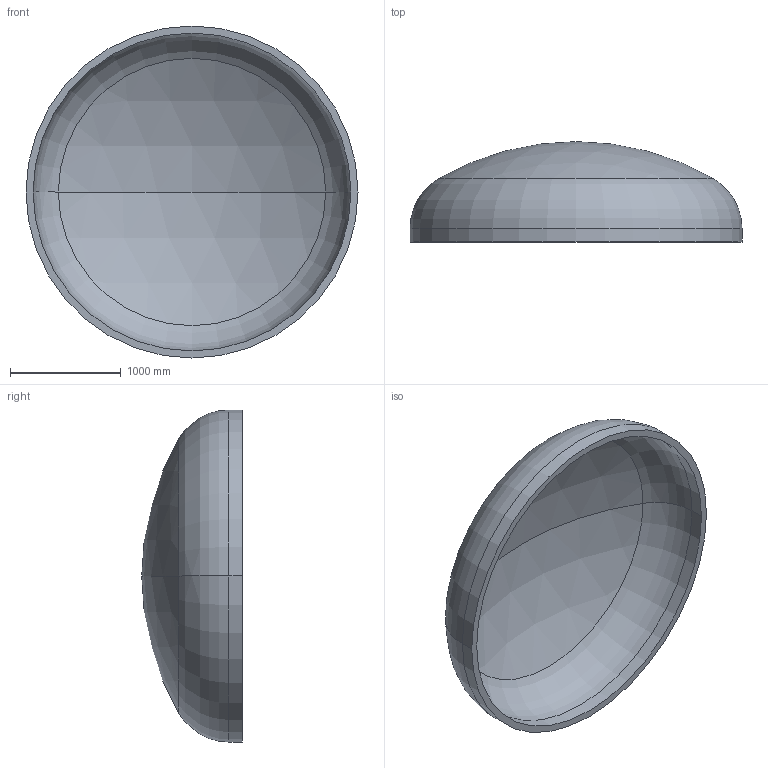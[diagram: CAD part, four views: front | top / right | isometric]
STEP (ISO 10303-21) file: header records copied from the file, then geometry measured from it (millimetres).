
FILE_DESCRIPTION (( 'STEP AP203' ), '1' );
FILE_NAME ('DIN 28013 Korbbogenform_-_Boden DIN 28013 - 3000 x 120 - I - s=64.step', '2016-07-01T17:56:07', ( '' ), ( '' ), 'SwSTEP 2.0', 'SolidWorks 2013', '' );
FILE_SCHEMA (( 'CONFIG_CONTROL_DESIGN' ));
Length unit declared in the file: millimetre
Products named in the file (1): DIN 28013 Korbbogenform_-_Boden DIN 28013 - 3000 x 120 - I - s=64
Bounding box: 3000 x 907.39 x 3000 mm (x, y, z)
Volume: 679530476.9 mm3; surface area: 21834216.7 mm2
Topology: 1 solids, 1 shells, 13 faces, 24 edges, 14 vertices
Faces by surface type: torus 4, cylinder 4, sphere 4, plane 1
Entity records: 407 total; most frequent: DIRECTION 72, CARTESIAN_POINT 52, ORIENTED_EDGE 48, AXIS2_PLACEMENT_3D 34, EDGE_CURVE 24, CIRCLE 20, EDGE_LOOP 14, VERTEX_POINT 14
